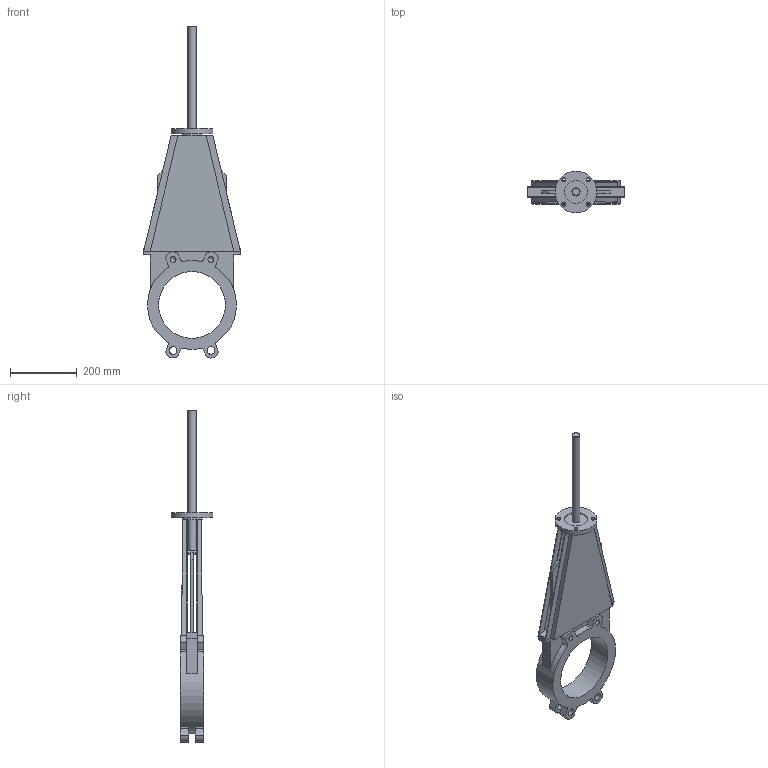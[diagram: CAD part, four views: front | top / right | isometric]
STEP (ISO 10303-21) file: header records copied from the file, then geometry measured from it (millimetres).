
FILE_DESCRIPTION(('STEP AP203'), '1');
FILE_NAME('K51GVA_DN200', '', ('UNSPECIFIED'), ('UNSPECIFIED'), 'ASCON STEP Converter 1.6', 'ASCON Math Kernel', '');
FILE_SCHEMA(('CONFIG_CONTROL_DESIGN'));
Length unit declared in the file: millimetre
Bounding box: 290 x 125 x 993.81 mm (x, y, z)
Volume: 3437889 mm3; surface area: 716935.3 mm2
Topology: 1 solids, 1 shells, 157 faces, 440 edges, 285 vertices
Faces by surface type: plane 100, cylinder 52, cone 5
Full cylindrical faces by diameter (mm): 12 x4, 17.294 x4, 23 x4, 24 x2, 60 x1, 70 x1, 125 x1, 200 x1
Entity records: 6240 total; most frequent: DIRECTION 858, CARTESIAN_POINT 852, ORIENTED_EDGE 826, EDGE_CURVE 413, AXIS2_PLACEMENT_3D 287, LINE 284, VECTOR 284, VERTEX_POINT 281
